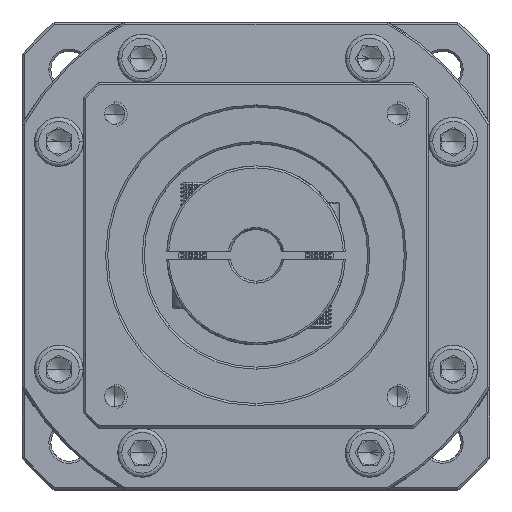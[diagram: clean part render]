
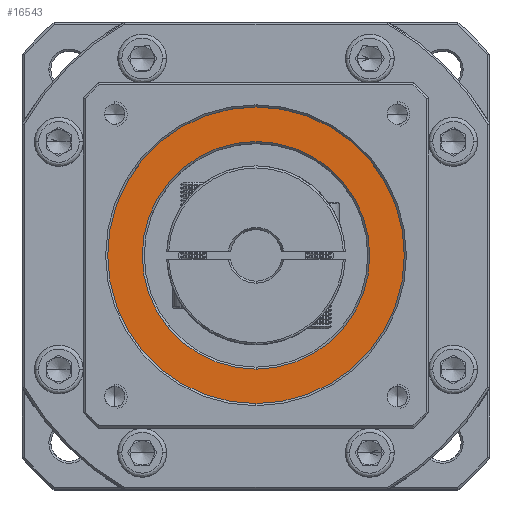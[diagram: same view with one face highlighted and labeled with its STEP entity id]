
A CAD part, top view. The second image highlights one B-rep face of the part: STEP entity #16543.
In plain terms, the highlighted planar face has unit normal (0, 0, 1).
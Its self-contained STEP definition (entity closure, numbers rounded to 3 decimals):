
#1865 = DIRECTION ( 'NONE',  ( 0., 0., 1. ) ) ;
#3176 = CARTESIAN_POINT ( 'NONE',  ( -45.676, -8.897, 265.002 ) ) ;
#3771 = EDGE_CURVE ( 'NONE', #6061, #63637, #43612, .T. ) ;
#6061 = VERTEX_POINT ( 'NONE', #12875 ) ;
#7035 = DIRECTION ( 'NONE',  ( 0., -1., 0. ) ) ;
#9257 = CIRCLE ( 'NONE', #31101, 36.5 ) ;
#11223 = DIRECTION ( 'NONE',  ( 0., -1., 0. ) ) ;
#12875 = CARTESIAN_POINT ( 'NONE',  ( -45.676, 27.603, 265.002 ) ) ;
#14560 = DIRECTION ( 'NONE',  ( 0., 0., -1. ) ) ;
#16413 = ORIENTED_EDGE ( 'NONE', *, *, #3771, .T. ) ;
#16543 = ADVANCED_FACE ( 'NONE', ( #138103, #24608 ), #64322, .T. ) ;
#17179 = ORIENTED_EDGE ( 'NONE', *, *, #126220, .T. ) ;
#24608 = FACE_BOUND ( 'NONE', #97627, .T. ) ;
#25305 = EDGE_CURVE ( 'NONE', #98430, #34361, #121833, .T. ) ;
#31101 = AXIS2_PLACEMENT_3D ( 'NONE', #53209, #1865, #11223 ) ;
#34361 = VERTEX_POINT ( 'NONE', #105417 ) ;
#35582 = CARTESIAN_POINT ( 'NONE',  ( -45.676, -8.897, 265.002 ) ) ;
#36763 = DIRECTION ( 'NONE',  ( 0., -1., 0. ) ) ;
#38333 = CARTESIAN_POINT ( 'NONE',  ( -45.676, -8.897, 265.002 ) ) ;
#40762 = AXIS2_PLACEMENT_3D ( 'NONE', #3176, #89634, #36763 ) ;
#43612 = CIRCLE ( 'NONE', #121413, 36.5 ) ;
#50934 = AXIS2_PLACEMENT_3D ( 'NONE', #38333, #71029, #7035 ) ;
#53209 = CARTESIAN_POINT ( 'NONE',  ( -45.676, -8.897, 265.002 ) ) ;
#58972 = DIRECTION ( 'NONE',  ( 0., 0., 1. ) ) ;
#63637 = VERTEX_POINT ( 'NONE', #112437 ) ;
#64322 = PLANE ( 'NONE',  #40762 ) ;
#69763 = CARTESIAN_POINT ( 'NONE',  ( -45.676, -8.897, 265.002 ) ) ;
#70567 = CIRCLE ( 'NONE', #128793, 28. ) ;
#71029 = DIRECTION ( 'NONE',  ( 0., 0., -1. ) ) ;
#78844 = ORIENTED_EDGE ( 'NONE', *, *, #86273, .T. ) ;
#86273 = EDGE_CURVE ( 'NONE', #63637, #6061, #9257, .T. ) ;
#89634 = DIRECTION ( 'NONE',  ( 0., 0., 1. ) ) ;
#97627 = EDGE_LOOP ( 'NONE', ( #100858, #17179 ) ) ;
#98430 = VERTEX_POINT ( 'NONE', #120967 ) ;
#100858 = ORIENTED_EDGE ( 'NONE', *, *, #25305, .T. ) ;
#105417 = CARTESIAN_POINT ( 'NONE',  ( -45.676, 19.103, 265.002 ) ) ;
#112437 = CARTESIAN_POINT ( 'NONE',  ( -45.676, -45.397, 265.002 ) ) ;
#120967 = CARTESIAN_POINT ( 'NONE',  ( -45.676, -36.897, 265.002 ) ) ;
#121413 = AXIS2_PLACEMENT_3D ( 'NONE', #69763, #58972, #133634 ) ;
#121833 = CIRCLE ( 'NONE', #50934, 28. ) ;
#122781 = DIRECTION ( 'NONE',  ( 0., -1., 0. ) ) ;
#126220 = EDGE_CURVE ( 'NONE', #34361, #98430, #70567, .T. ) ;
#128793 = AXIS2_PLACEMENT_3D ( 'NONE', #35582, #14560, #122781 ) ;
#131532 = EDGE_LOOP ( 'NONE', ( #78844, #16413 ) ) ;
#133634 = DIRECTION ( 'NONE',  ( 0., -1., 0. ) ) ;
#138103 = FACE_OUTER_BOUND ( 'NONE', #131532, .T. ) ;
